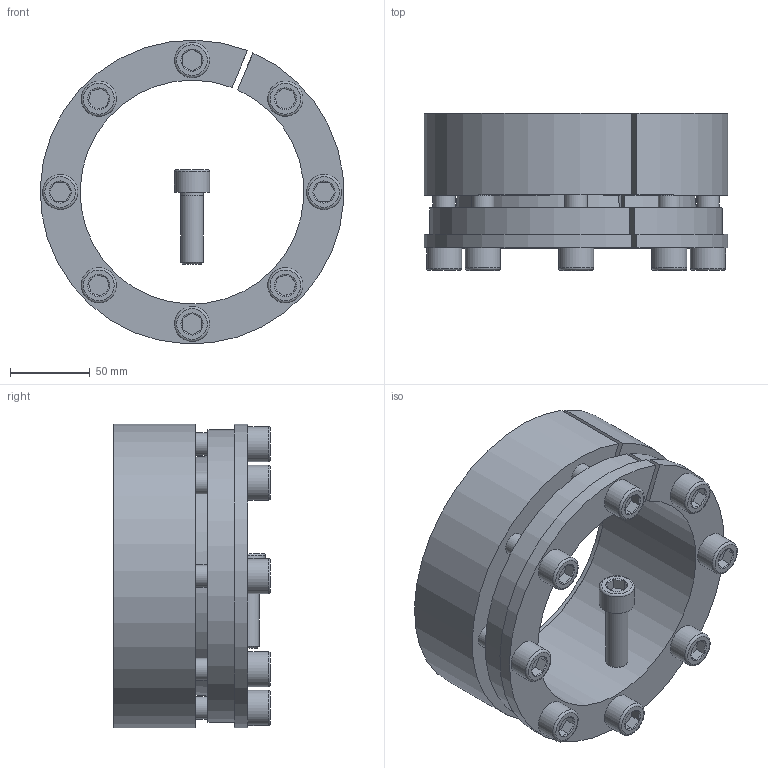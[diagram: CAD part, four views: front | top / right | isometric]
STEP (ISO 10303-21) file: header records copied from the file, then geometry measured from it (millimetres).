
FILE_DESCRIPTION( ( 'Unknown' ), '1' );
FILE_NAME( 'C:/Dokumente und Einstellungen/Sven/Desktop/homepage/cad - homepage/KBS70/KBS 70 - 140 x 190.stp', 'Unknown', ( 'Unknown' ), ( 'Unknown' ), 'XStep 1.0', 'Unknown', ' ' );
FILE_SCHEMA( ( 'automotive_design' ) );
Length unit declared in the file: millimetre
Products named in the file (3): Assem1; KBS 70 - 140 x 190; ISO EN DIN 4762 M14x45
Bounding box: 189.79 x 98 x 189.87 mm (x, y, z)
Volume: 1835055.9 mm3; surface area: 351932.8 mm2
Topology: 11 solids, 11 shells, 285 faces, 583 edges, 356 vertices
Faces by surface type: plane 124, cylinder 76, cone 67, torus 18
Full cylindrical faces by diameter (mm): 12 x9, 14 x50, 22 x9
Entity records: 1894 total; most frequent: CARTESIAN_POINT 317, DIRECTION 284, ORIENTED_EDGE 206, AXIS2_PLACEMENT_3D 126, EDGE_LOOP 114, EDGE_CURVE 103, VERTEX_POINT 79, FACE_OUTER_BOUND 77
